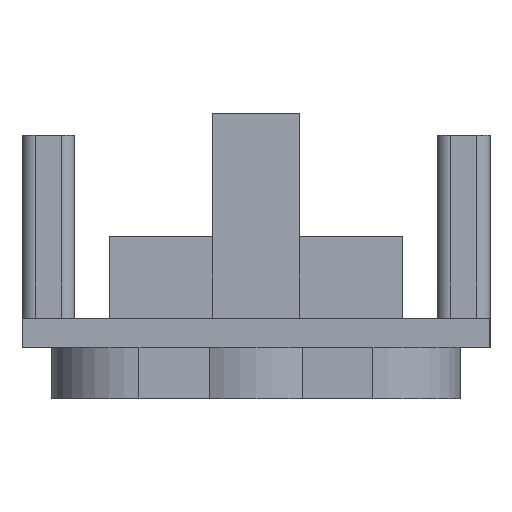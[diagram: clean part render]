
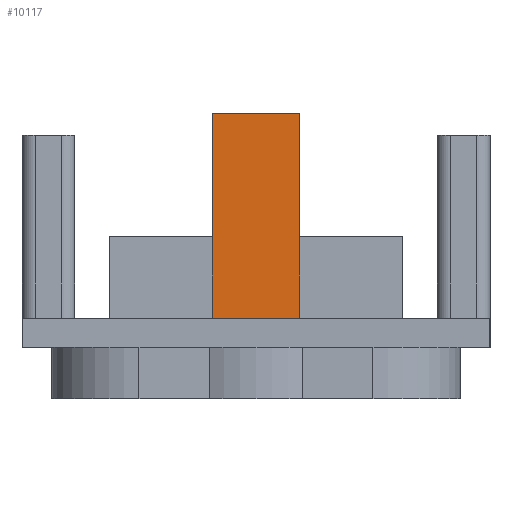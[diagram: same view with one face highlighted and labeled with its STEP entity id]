
A CAD part, left-side view. The second image highlights one B-rep face of the part: STEP entity #10117.
In plain terms, the highlighted planar face has unit normal (-1, 0, 0).
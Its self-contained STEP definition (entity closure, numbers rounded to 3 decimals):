
#5140 = PLANE('',#5141);
#5141 = AXIS2_PLACEMENT_3D('',#5142,#5143,#5144);
#5142 = CARTESIAN_POINT('',(-13.2,-55.,-9.9));
#5143 = DIRECTION('',(0.,0.,1.));
#5144 = DIRECTION('',(1.,0.,-0.));
#8753 = VERTEX_POINT('',#8754);
#8754 = CARTESIAN_POINT('',(-10.9,-48.5,-9.9));
#8769 = PLANE('',#8770);
#8770 = AXIS2_PLACEMENT_3D('',#8771,#8772,#8773);
#8771 = CARTESIAN_POINT('',(-10.,-48.5,-6.955));
#8772 = DIRECTION('',(0.,1.,0.));
#8773 = DIRECTION('',(0.,-0.,1.));
#8780 = EDGE_CURVE('',#8781,#8753,#8783,.T.);
#8781 = VERTEX_POINT('',#8782);
#8782 = CARTESIAN_POINT('',(-10.9,-45.5,-9.9));
#8783 = SURFACE_CURVE('',#8784,(#8788,#8794),.PCURVE_S1.);
#8784 = LINE('',#8785,#8786);
#8785 = CARTESIAN_POINT('',(-10.9,-51.,-9.9));
#8786 = VECTOR('',#8787,1.);
#8787 = DIRECTION('',(0.,-1.,0.));
#8788 = PCURVE('',#5140,#8789);
#8789 = DEFINITIONAL_REPRESENTATION('',(#8790),#8793);
#8790 = B_SPLINE_CURVE_WITH_KNOTS('',1,(#8791,#8792),.UNSPECIFIED.,.F.,
  .F.,(2,2),(-5.5,-2.5),.PIECEWISE_BEZIER_KNOTS.);
#8791 = CARTESIAN_POINT('',(2.3,9.5));
#8792 = CARTESIAN_POINT('',(2.3,6.5));
#8793 = ( GEOMETRIC_REPRESENTATION_CONTEXT(2) 
PARAMETRIC_REPRESENTATION_CONTEXT() REPRESENTATION_CONTEXT('2D SPACE',''
  ) );
#8794 = PCURVE('',#8795,#8800);
#8795 = PLANE('',#8796);
#8796 = AXIS2_PLACEMENT_3D('',#8797,#8798,#8799);
#8797 = CARTESIAN_POINT('',(-10.9,-47.,-6.955));
#8798 = DIRECTION('',(1.,0.,0.));
#8799 = DIRECTION('',(0.,0.,-1.));
#8800 = DEFINITIONAL_REPRESENTATION('',(#8801),#8804);
#8801 = B_SPLINE_CURVE_WITH_KNOTS('',1,(#8802,#8803),.UNSPECIFIED.,.F.,
  .F.,(2,2),(-5.5,-2.5),.PIECEWISE_BEZIER_KNOTS.);
#8802 = CARTESIAN_POINT('',(2.945,1.5));
#8803 = CARTESIAN_POINT('',(2.945,-1.5));
#8804 = ( GEOMETRIC_REPRESENTATION_CONTEXT(2) 
PARAMETRIC_REPRESENTATION_CONTEXT() REPRESENTATION_CONTEXT('2D SPACE',''
  ) );
#8821 = PLANE('',#8822);
#8822 = AXIS2_PLACEMENT_3D('',#8823,#8824,#8825);
#8823 = CARTESIAN_POINT('',(-10.,-45.5,-6.955));
#8824 = DIRECTION('',(0.,-1.,0.));
#8825 = DIRECTION('',(0.,0.,-1.));
#10069 = EDGE_CURVE('',#10070,#8753,#10072,.T.);
#10070 = VERTEX_POINT('',#10071);
#10071 = CARTESIAN_POINT('',(-10.9,-48.5,-2.9));
#10072 = SURFACE_CURVE('',#10073,(#10077,#10084),.PCURVE_S1.);
#10073 = LINE('',#10074,#10075);
#10074 = CARTESIAN_POINT('',(-10.9,-48.5,-2.95));
#10075 = VECTOR('',#10076,1.);
#10076 = DIRECTION('',(0.,0.,-1.));
#10077 = PCURVE('',#8769,#10078);
#10078 = DEFINITIONAL_REPRESENTATION('',(#10079),#10083);
#10079 = LINE('',#10080,#10081);
#10080 = CARTESIAN_POINT('',(4.005,-0.9));
#10081 = VECTOR('',#10082,1.);
#10082 = DIRECTION('',(-1.,0.));
#10083 = ( GEOMETRIC_REPRESENTATION_CONTEXT(2) 
PARAMETRIC_REPRESENTATION_CONTEXT() REPRESENTATION_CONTEXT('2D SPACE',''
  ) );
#10084 = PCURVE('',#8795,#10085);
#10085 = DEFINITIONAL_REPRESENTATION('',(#10086),#10090);
#10086 = LINE('',#10087,#10088);
#10087 = CARTESIAN_POINT('',(-4.005,-1.5));
#10088 = VECTOR('',#10089,1.);
#10089 = DIRECTION('',(1.,0.));
#10090 = ( GEOMETRIC_REPRESENTATION_CONTEXT(2) 
PARAMETRIC_REPRESENTATION_CONTEXT() REPRESENTATION_CONTEXT('2D SPACE',''
  ) );
#10106 = PLANE('',#10107);
#10107 = AXIS2_PLACEMENT_3D('',#10108,#10109,#10110);
#10108 = CARTESIAN_POINT('',(-10.,-47.,-2.9));
#10109 = DIRECTION('',(0.,0.,1.));
#10110 = DIRECTION('',(1.,0.,-0.));
#10117 = ADVANCED_FACE('',(#10118),#8795,.F.);
#10118 = FACE_BOUND('',#10119,.F.);
#10119 = EDGE_LOOP('',(#10120,#10121,#10122,#10145));
#10120 = ORIENTED_EDGE('',*,*,#10069,.T.);
#10121 = ORIENTED_EDGE('',*,*,#8780,.F.);
#10122 = ORIENTED_EDGE('',*,*,#10123,.F.);
#10123 = EDGE_CURVE('',#10124,#8781,#10126,.T.);
#10124 = VERTEX_POINT('',#10125);
#10125 = CARTESIAN_POINT('',(-10.9,-45.5,-2.9));
#10126 = SURFACE_CURVE('',#10127,(#10131,#10138),.PCURVE_S1.);
#10127 = LINE('',#10128,#10129);
#10128 = CARTESIAN_POINT('',(-10.9,-45.5,-2.95));
#10129 = VECTOR('',#10130,1.);
#10130 = DIRECTION('',(0.,0.,-1.));
#10131 = PCURVE('',#8795,#10132);
#10132 = DEFINITIONAL_REPRESENTATION('',(#10133),#10137);
#10133 = LINE('',#10134,#10135);
#10134 = CARTESIAN_POINT('',(-4.005,1.5));
#10135 = VECTOR('',#10136,1.);
#10136 = DIRECTION('',(1.,0.));
#10137 = ( GEOMETRIC_REPRESENTATION_CONTEXT(2) 
PARAMETRIC_REPRESENTATION_CONTEXT() REPRESENTATION_CONTEXT('2D SPACE',''
  ) );
#10138 = PCURVE('',#8821,#10139);
#10139 = DEFINITIONAL_REPRESENTATION('',(#10140),#10144);
#10140 = LINE('',#10141,#10142);
#10141 = CARTESIAN_POINT('',(-4.005,-0.9));
#10142 = VECTOR('',#10143,1.);
#10143 = DIRECTION('',(1.,0.));
#10144 = ( GEOMETRIC_REPRESENTATION_CONTEXT(2) 
PARAMETRIC_REPRESENTATION_CONTEXT() REPRESENTATION_CONTEXT('2D SPACE',''
  ) );
#10145 = ORIENTED_EDGE('',*,*,#10146,.T.);
#10146 = EDGE_CURVE('',#10124,#10070,#10147,.T.);
#10147 = SURFACE_CURVE('',#10148,(#10152,#10159),.PCURVE_S1.);
#10148 = LINE('',#10149,#10150);
#10149 = CARTESIAN_POINT('',(-10.9,-47.,-2.9));
#10150 = VECTOR('',#10151,1.);
#10151 = DIRECTION('',(0.,-1.,0.));
#10152 = PCURVE('',#8795,#10153);
#10153 = DEFINITIONAL_REPRESENTATION('',(#10154),#10158);
#10154 = LINE('',#10155,#10156);
#10155 = CARTESIAN_POINT('',(-4.055,0.));
#10156 = VECTOR('',#10157,1.);
#10157 = DIRECTION('',(0.,-1.));
#10158 = ( GEOMETRIC_REPRESENTATION_CONTEXT(2) 
PARAMETRIC_REPRESENTATION_CONTEXT() REPRESENTATION_CONTEXT('2D SPACE',''
  ) );
#10159 = PCURVE('',#10106,#10160);
#10160 = DEFINITIONAL_REPRESENTATION('',(#10161),#10165);
#10161 = LINE('',#10162,#10163);
#10162 = CARTESIAN_POINT('',(-0.9,0.));
#10163 = VECTOR('',#10164,1.);
#10164 = DIRECTION('',(0.,-1.));
#10165 = ( GEOMETRIC_REPRESENTATION_CONTEXT(2) 
PARAMETRIC_REPRESENTATION_CONTEXT() REPRESENTATION_CONTEXT('2D SPACE',''
  ) );
